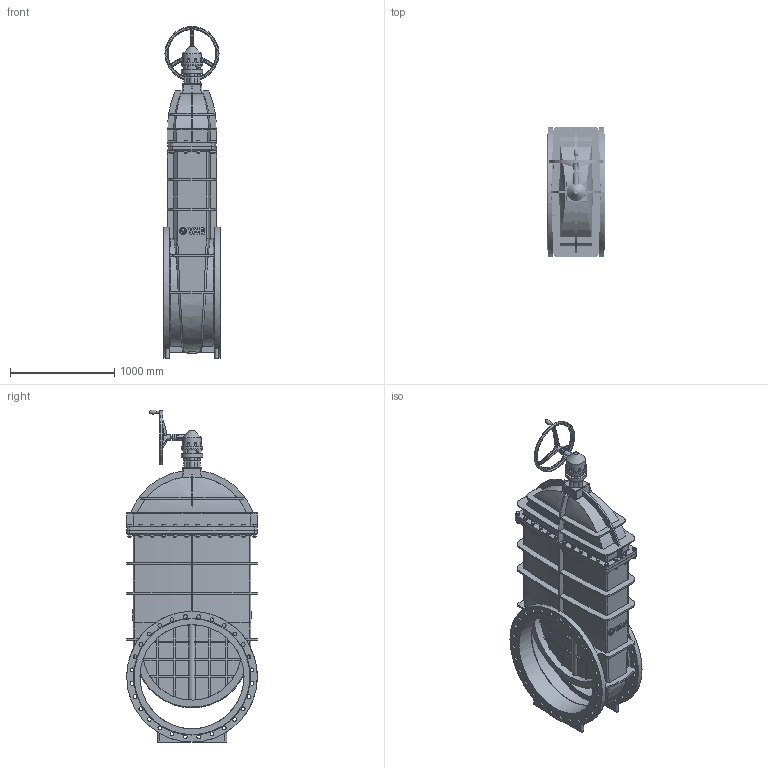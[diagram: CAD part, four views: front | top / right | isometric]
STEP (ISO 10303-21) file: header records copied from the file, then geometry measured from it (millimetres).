
FILE_DESCRIPTION(('STEP AP242'), '1');
FILE_NAME('青溻桄赅', '', ('UNSPECIFIED'), ('UNSPECIFIED'), 'C3D Converter', 'C3D Toolkit', '');
FILE_SCHEMA(('AP242_MANAGED_MODEL_BASED_3D_ENGINEERING_MIM_LF { 1 0 10303 442 1 1 4 }'));
Length unit declared in the file: millimetre
Assembly tree (195 placements, depth 2):
  (unnamed)
    (unnamed)
    (unnamed)
    (unnamed)
    (unnamed)  x2
    (unnamed)
    (unnamed)
    (unnamed)
    (unnamed)
    (unnamed)
    (unnamed)  x28
    (unnamed)  x56
    (unnamed)  x56
    (unnamed)  x28
    (unnamed)
    (unnamed)  x4
    (unnamed)  x12
Bounding box: 550 x 1256 x 3189.32 mm (x, y, z)
Volume: 264202883.5 mm3; surface area: 23716725.4 mm2
Topology: 203 solids, 203 shells, 3412 faces, 7861 edges, 4952 vertices
Faces by surface type: plane 1927, cylinder 772, cone 408, extrusion 151, torus 86, bspline 68
Full cylindrical faces by diameter (mm): 5 x12, 6 x39, 10 x16, 12 x20, 17.294 x28, 18 x8, 20 x33, 22 x140, 30 x28, 34 x56, 37 x56, 40 x10, 50 x1, 60 x2, 73.333 x5, 74.519 x1, 80 x1, 153.825 x2, 178.745 x1, 203.666 x3, 460 x1, 470 x1, 510 x1, 520 x1, 950 x2, 1000 x4, 1060 x4, 1100 x1, 1255 x2
Entity records: 76694 total; most frequent: CARTESIAN_POINT 32345, ORIENTED_EDGE 7448, DIRECTION 7260, EDGE_CURVE 3724, AXIS2_PLACEMENT_3D 2614, VERTEX_POINT 2600, EDGE_LOOP 2236, VECTOR 2032
